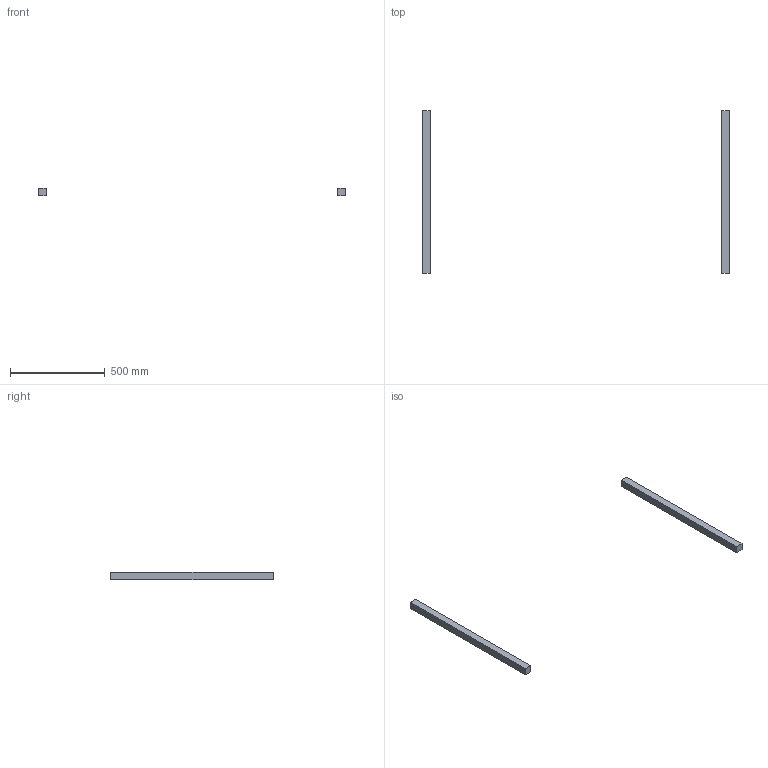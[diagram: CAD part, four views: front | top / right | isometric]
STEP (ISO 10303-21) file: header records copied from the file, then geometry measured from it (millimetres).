
FILE_DESCRIPTION(/* description */ (''),/* implementation_level */ '2;1');
FILE_NAME(/* name */ '2.frame-gantry#2.3#HFS5-4040-860',/* time_stamp */ '2014-12-01T20:11:42+01:00',/* author */ (''),/* organization */ (''),/* preprocessor_version */ 'ST-DEVELOPER v14',/* originating_system */ '',/* authorisation */ '');
FILE_SCHEMA (('AUTOMOTIVE_DESIGN'));
Length unit declared in the file: millimetre
Products named in the file (1): Document
Bounding box: 1620 x 860 x 40 mm (x, y, z)
Volume: 2752000 mm3; surface area: 281600 mm2
Topology: 2 solids, 2 shells, 12 faces, 24 edges, 16 vertices
Faces by surface type: plane 12
Entity records: 571 total; most frequent: CARTESIAN_POINT 174, B_SPLINE_CURVE_WITH_KNOTS 72, ORIENTED_EDGE 48, PCURVE 48, DEFINITIONAL_REPRESENTATION 48, SURFACE_CURVE 24, EDGE_CURVE 24, VERTEX_POINT 16
